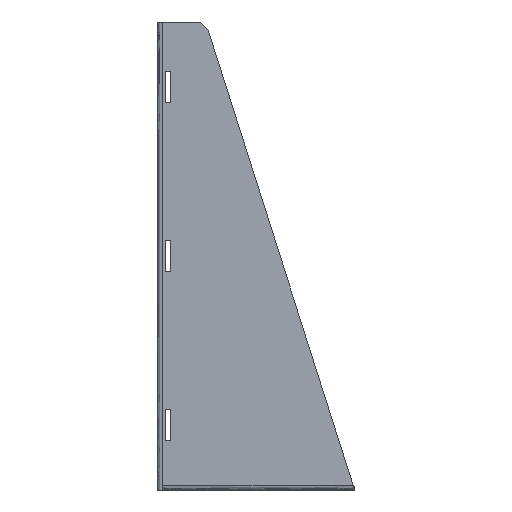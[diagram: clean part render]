
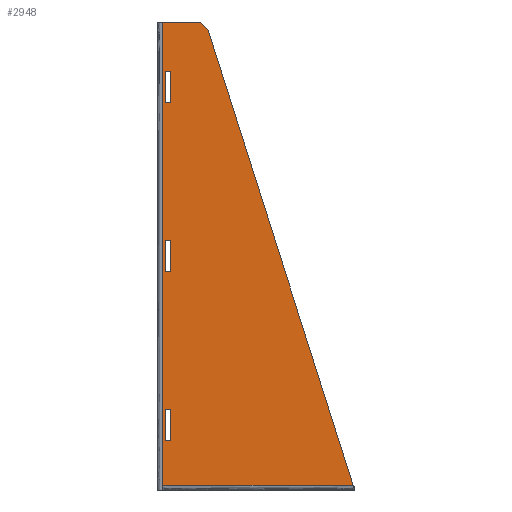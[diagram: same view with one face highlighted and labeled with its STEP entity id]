
A CAD part, left-side view. The second image highlights one B-rep face of the part: STEP entity #2948.
In plain terms, the highlighted free-form (B-spline) face has degree [1, 1] with [2, 2] control points.
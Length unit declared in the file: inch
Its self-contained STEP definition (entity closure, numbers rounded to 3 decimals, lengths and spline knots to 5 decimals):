
#62=CARTESIAN_POINT('V30',(10.36851,14.92486,
   5.165));
#63=VERTEX_POINT('V30',#62);
#76=CARTESIAN_POINT('V31',(10.36851,14.92486,
   5.915));
#77=VERTEX_POINT('V31',#76);
#83=CARTESIAN_POINT('E30',(10.36851,14.92486,
   5.915));
#84=CARTESIAN_POINT('E30',(10.36851,14.92486,
   5.165));
#85=QUASI_UNIFORM_CURVE('E30',1,(#83,#84),.POLYLINE_FORM.,.F.,.U.);
#86=EDGE_CURVE('E30',#77,#63,#85,.T.);
#104=CARTESIAN_POINT('V32',(10.36851,14.79986,
   5.915));
#105=VERTEX_POINT('V32',#104);
#111=CARTESIAN_POINT('E31',(10.36851,14.79986,
   5.915));
#112=CARTESIAN_POINT('E31',(10.36851,14.92486,
   5.915));
#113=QUASI_UNIFORM_CURVE('E31',1,(#111,#112),.POLYLINE_FORM.,.F.,.U.
   );
#114=EDGE_CURVE('E31',#105,#77,#113,.T.);
#132=CARTESIAN_POINT('V29',(10.36851,14.79986,
   5.165));
#133=VERTEX_POINT('V29',#132);
#139=CARTESIAN_POINT('E32',(10.36851,14.79986,
   5.165));
#140=CARTESIAN_POINT('E32',(10.36851,14.79986,
   5.915));
#141=QUASI_UNIFORM_CURVE('E32',1,(#139,#140),.POLYLINE_FORM.,.F.,.U.
   );
#142=EDGE_CURVE('E32',#133,#105,#141,.T.);
#159=CARTESIAN_POINT('E29',(10.36851,14.92486,
   5.165));
#160=CARTESIAN_POINT('E29',(10.36851,14.79986,
   5.165));
#161=QUASI_UNIFORM_CURVE('E29',1,(#159,#160),.POLYLINE_FORM.,.F.,.U.
   );
#162=EDGE_CURVE('E29',#63,#133,#161,.T.);
#174=CARTESIAN_POINT('V34',(10.36851,14.92486,
   9.165));
#175=VERTEX_POINT('V34',#174);
#188=CARTESIAN_POINT('V35',(10.36851,14.92486,
   9.915));
#189=VERTEX_POINT('V35',#188);
#195=CARTESIAN_POINT('E34',(10.36851,14.92486,
   9.915));
#196=CARTESIAN_POINT('E34',(10.36851,14.92486,
   9.165));
#197=QUASI_UNIFORM_CURVE('E34',1,(#195,#196),.POLYLINE_FORM.,.F.,.U.
   );
#198=EDGE_CURVE('E34',#189,#175,#197,.T.);
#216=CARTESIAN_POINT('V36',(10.36851,14.79986,
   9.915));
#217=VERTEX_POINT('V36',#216);
#223=CARTESIAN_POINT('E35',(10.36851,14.79986,
   9.915));
#224=CARTESIAN_POINT('E35',(10.36851,14.92486,
   9.915));
#225=QUASI_UNIFORM_CURVE('E35',1,(#223,#224),.POLYLINE_FORM.,.F.,.U.
   );
#226=EDGE_CURVE('E35',#217,#189,#225,.T.);
#244=CARTESIAN_POINT('V33',(10.36851,14.79986,
   9.165));
#245=VERTEX_POINT('V33',#244);
#251=CARTESIAN_POINT('E36',(10.36851,14.79986,
   9.165));
#252=CARTESIAN_POINT('E36',(10.36851,14.79986,
   9.915));
#253=QUASI_UNIFORM_CURVE('E36',1,(#251,#252),.POLYLINE_FORM.,.F.,.U.
   );
#254=EDGE_CURVE('E36',#245,#217,#253,.T.);
#271=CARTESIAN_POINT('E33',(10.36851,14.92486,
   9.165));
#272=CARTESIAN_POINT('E33',(10.36851,14.79986,
   9.165));
#273=QUASI_UNIFORM_CURVE('E33',1,(#271,#272),.POLYLINE_FORM.,.F.,.U.
   );
#274=EDGE_CURVE('E33',#175,#245,#273,.T.);
#286=CARTESIAN_POINT('V38',(10.36851,14.92486,
   1.165));
#287=VERTEX_POINT('V38',#286);
#300=CARTESIAN_POINT('V39',(10.36851,14.92486,
   1.915));
#301=VERTEX_POINT('V39',#300);
#307=CARTESIAN_POINT('E38',(10.36851,14.92486,
   1.915));
#308=CARTESIAN_POINT('E38',(10.36851,14.92486,
   1.165));
#309=QUASI_UNIFORM_CURVE('E38',1,(#307,#308),.POLYLINE_FORM.,.F.,.U.
   );
#310=EDGE_CURVE('E38',#301,#287,#309,.T.);
#328=CARTESIAN_POINT('V40',(10.36851,14.79986,
   1.915));
#329=VERTEX_POINT('V40',#328);
#335=CARTESIAN_POINT('E39',(10.36851,14.79986,
   1.915));
#336=CARTESIAN_POINT('E39',(10.36851,14.92486,
   1.915));
#337=QUASI_UNIFORM_CURVE('E39',1,(#335,#336),.POLYLINE_FORM.,.F.,.U.
   );
#338=EDGE_CURVE('E39',#329,#301,#337,.T.);
#356=CARTESIAN_POINT('V37',(10.36851,14.79986,
   1.165));
#357=VERTEX_POINT('V37',#356);
#363=CARTESIAN_POINT('E40',(10.36851,14.79986,
   1.165));
#364=CARTESIAN_POINT('E40',(10.36851,14.79986,
   1.915));
#365=QUASI_UNIFORM_CURVE('E40',1,(#363,#364),.POLYLINE_FORM.,.F.,.U.
   );
#366=EDGE_CURVE('E40',#357,#329,#365,.T.);
#383=CARTESIAN_POINT('E37',(10.36851,14.92486,
   1.165));
#384=CARTESIAN_POINT('E37',(10.36851,14.79986,
   1.165));
#385=QUASI_UNIFORM_CURVE('E37',1,(#383,#384),.POLYLINE_FORM.,.F.,.U.
   );
#386=EDGE_CURVE('E37',#287,#357,#385,.T.);
#1885=CARTESIAN_POINT('V46',(10.36851,14.99736,
   0.0));
#1886=VERTEX_POINT('V46',#1885);
#1900=CARTESIAN_POINT('V45',(10.36851,14.99736,
   11.08));
#1901=VERTEX_POINT('V45',#1900);
#1902=CARTESIAN_POINT('E45',(10.36851,14.99736,
   0.0));
#1903=CARTESIAN_POINT('E45',(10.36851,14.99736,
   11.08));
#1904=QUASI_UNIFORM_CURVE('E45',1,(#1902,#1903),.POLYLINE_FORM.,.F.,
   .U.);
#1905=EDGE_CURVE('E45',#1886,#1901,#1904,.T.);
#1944=CARTESIAN_POINT('V41',(10.36851,14.98036,
   0.115));
#1945=VERTEX_POINT('V41',#1944);
#1959=CARTESIAN_POINT('V48',(10.36851,14.98036,
   0.00097));
#1960=VERTEX_POINT('V48',#1959);
#1961=CARTESIAN_POINT('E48',(10.36851,14.98036,
   0.115));
#1962=CARTESIAN_POINT('E48',(10.36851,14.98036,
   0.00097));
#1963=QUASI_UNIFORM_CURVE('E48',1,(#1961,#1962),.POLYLINE_FORM.,.F.,
   .U.);
#1964=EDGE_CURVE('E48',#1945,#1960,#1963,.T.);
#1966=CARTESIAN_POINT('V47',(10.36851,14.98036,
   0.0));
#1967=VERTEX_POINT('V47',#1966);
#1968=CARTESIAN_POINT('E47',(10.36851,14.98036,
   0.00097));
#1969=CARTESIAN_POINT('E47',(10.36851,14.98036,
   0.0));
#1970=QUASI_UNIFORM_CURVE('E47',1,(#1968,#1969),.POLYLINE_FORM.,.F.,
   .U.);
#1971=EDGE_CURVE('E47',#1960,#1967,#1970,.T.);
#2052=CARTESIAN_POINT('E46',(10.36851,14.98036,
   0.0));
#2053=CARTESIAN_POINT('E46',(10.36851,14.99736,
   0.0));
#2054=QUASI_UNIFORM_CURVE('E46',1,(#2052,#2053),.POLYLINE_FORM.,.F.,
   .U.);
#2055=EDGE_CURVE('E46',#1967,#1886,#2054,.T.);
#2852=CARTESIAN_POINT('V44',(10.36851,14.09663,
   11.08));
#2853=VERTEX_POINT('V44',#2852);
#2869=CARTESIAN_POINT('E44',(10.36851,14.99736,
   11.08));
#2870=CARTESIAN_POINT('E44',(10.36851,14.09663,
   11.08));
#2871=QUASI_UNIFORM_CURVE('E44',1,(#2869,#2870),.POLYLINE_FORM.,.F.,
   .U.);
#2872=EDGE_CURVE('E44',#1901,#2853,#2871,.T.);
#2882=CARTESIAN_POINT('V43',(10.36851,13.91162,
   10.89499));
#2883=VERTEX_POINT('V43',#2882);
#2897=CARTESIAN_POINT('E43',(10.36851,14.09663,
   11.08));
#2898=CARTESIAN_POINT('E43',(10.36851,13.91162,
   10.89499));
#2899=QUASI_UNIFORM_CURVE('E43',1,(#2897,#2898),.POLYLINE_FORM.,.F.,
   .U.);
#2900=EDGE_CURVE('E43',#2853,#2883,#2899,.T.);
#2905=CARTESIAN_POINT('F4',(10.36851,14.99854,
   11.08118));
#2906=CARTESIAN_POINT('F4',(10.36851,10.46988,
   11.08118));
#2907=CARTESIAN_POINT('F4',(10.36851,14.99854,
   -0.00118));
#2908=CARTESIAN_POINT('F4',(10.36851,10.46988,
   -0.00118));
#2909=B_SPLINE_SURFACE_WITH_KNOTS('F4',1,1,((#2905,#2907),(#2906,
   #2908)),.PLANE_SURF.,.F.,.F.,.U.,(2,2),(2,2),(0.0,1.0),(0.0,
   2.44716),.UNSPECIFIED.);
#2910=CARTESIAN_POINT('V42',(10.36851,10.47106,
   0.115));
#2911=VERTEX_POINT('V42',#2910);
#2912=CARTESIAN_POINT('E42',(10.36851,13.91162,
   10.89499));
#2913=CARTESIAN_POINT('E42',(10.36851,10.47106,
   0.115));
#2914=QUASI_UNIFORM_CURVE('E42',1,(#2912,#2913),.POLYLINE_FORM.,.F.,
   .U.);
#2915=EDGE_CURVE('E42',#2883,#2911,#2914,.T.);
#2916=ORIENTED_EDGE('E42',*,*,#2915,.F.);
#2917=ORIENTED_EDGE('F92',*,*,#2900,.F.);
#2918=ORIENTED_EDGE('F93',*,*,#2872,.F.);
#2919=ORIENTED_EDGE('E45',*,*,#1905,.F.);
#2920=ORIENTED_EDGE('E46',*,*,#2055,.F.);
#2921=ORIENTED_EDGE('E47',*,*,#1971,.F.);
#2922=ORIENTED_EDGE('E48',*,*,#1964,.F.);
#2923=CARTESIAN_POINT('E41',(10.36851,10.47106,
   0.115));
#2924=CARTESIAN_POINT('E41',(10.36851,14.98036,
   0.115));
#2925=QUASI_UNIFORM_CURVE('E41',1,(#2923,#2924),.POLYLINE_FORM.,.F.,
   .U.);
#2926=EDGE_CURVE('E41',#2911,#1945,#2925,.T.);
#2927=ORIENTED_EDGE('E41',*,*,#2926,.F.);
#2928=EDGE_LOOP('F4',(#2916,#2917,#2918,#2919,#2920,#2921,#2922,
   #2927));
#2929=FACE_OUTER_BOUND('F4',#2928,.T.);
#2930=ORIENTED_EDGE('F65',*,*,#310,.F.);
#2931=ORIENTED_EDGE('F66',*,*,#338,.F.);
#2932=ORIENTED_EDGE('F67',*,*,#366,.F.);
#2933=ORIENTED_EDGE('F68',*,*,#386,.F.);
#2934=EDGE_LOOP('F4',(#2930,#2931,#2932,#2933));
#2935=FACE_BOUND('F4',#2934,.T.);
#2936=ORIENTED_EDGE('F61',*,*,#198,.F.);
#2937=ORIENTED_EDGE('F62',*,*,#226,.F.);
#2938=ORIENTED_EDGE('F63',*,*,#254,.F.);
#2939=ORIENTED_EDGE('F64',*,*,#274,.F.);
#2940=EDGE_LOOP('F4',(#2936,#2937,#2938,#2939));
#2941=FACE_BOUND('F4',#2940,.T.);
#2942=ORIENTED_EDGE('F57',*,*,#86,.F.);
#2943=ORIENTED_EDGE('F58',*,*,#114,.F.);
#2944=ORIENTED_EDGE('F59',*,*,#142,.F.);
#2945=ORIENTED_EDGE('F60',*,*,#162,.F.);
#2946=EDGE_LOOP('F4',(#2942,#2943,#2944,#2945));
#2947=FACE_BOUND('F4',#2946,.T.);
#2948=ADVANCED_FACE('F4',(#2929,#2935,#2941,#2947),#2909,.F.);
